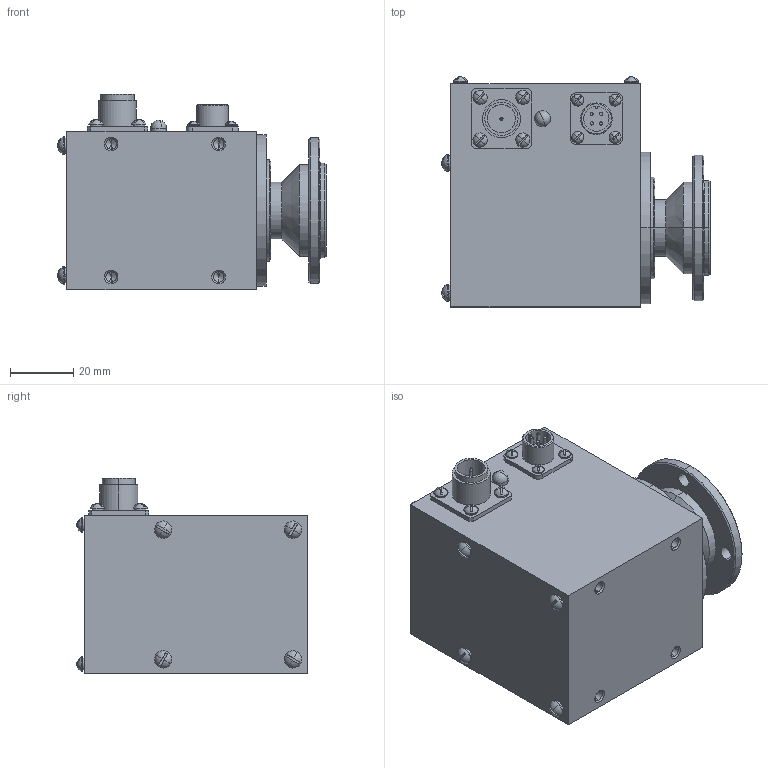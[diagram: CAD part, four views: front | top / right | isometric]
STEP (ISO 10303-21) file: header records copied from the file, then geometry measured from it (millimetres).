
FILE_DESCRIPTION (( 'STEP AP214' ), '1' );
FILE_NAME ('TT10.STEP', '2022-08-01T07:07:37', ( '砐錪賧瘔蠈錪 Windows' ), ( '' ), 'SwSTEP 2.0', 'SolidWorks 2019', '' );
FILE_SCHEMA (( 'AUTOMOTIVE_DESIGN' ));
Length unit declared in the file: millimetre
Products named in the file (1): TT10
Bounding box: 84.87 x 72.78 x 61.7 mm (x, y, z)
Volume: 225342.5 mm3; surface area: 33127.8 mm2
Topology: 1 solids, 2 shells, 537 faces, 1284 edges, 805 vertices
Faces by surface type: cylinder 224, plane 191, cone 76, sphere 42, torus 4
Entity records: 17015 total; most frequent: CARTESIAN_POINT 3671, DIRECTION 2766, ORIENTED_EDGE 2524, EDGE_CURVE 1262, AXIS2_PLACEMENT_3D 1154, VERTEX_POINT 803, EDGE_LOOP 661, CIRCLE 616
